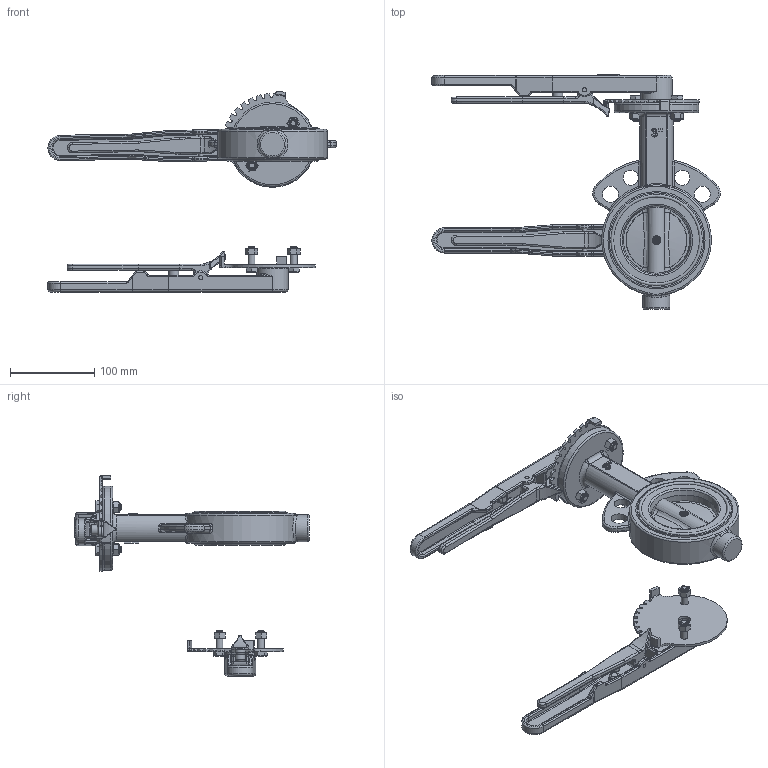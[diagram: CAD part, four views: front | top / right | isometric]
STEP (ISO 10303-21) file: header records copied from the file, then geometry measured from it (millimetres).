
FILE_DESCRIPTION( ( 'Unknown' ), '1' );
FILE_NAME( 'D:/Documentos Murilo/Desktop/VARB/2024/10_OUTUBRO/AMA 93_3/montagem AMA_93_3.stp', 'Unknown', ( 'Unknown' ), ( 'Unknown' ), 'PSStep 11.0', 'Unknown', ' ' );
FILE_SCHEMA( ( 'AUTOMOTIVE_DESIGN { 1 0 10303 214 1 1 1 1 }' ) );
Length unit declared in the file: millimetre
Products named in the file (13): Assem1; CORPO 3; ALAVANCA AMA 93; PARAFUSO; POSICIONADOR; SEDE BORRACHA 3; EIXO_3; BORBOLETA 3
Bounding box: 341.39 x 278 x 238.85 mm (x, y, z)
Volume: 1473968.2 mm3; surface area: 428900.4 mm2
Topology: 24 solids, 24 shells, 1748 faces, 4084 edges, 2462 vertices
Faces by surface type: plane 622, cylinder 490, bspline 252, torus 196, extrusion 126, cone 46, sphere 16
Full cylindrical faces by diameter (mm): 4.8 x2, 5 x4, 5.2 x2, 8 x4, 9 x12, 11.5 x2, 11.8 x4, 12 x6, 14 x2, 14.4 x2, 14.5 x8, 18 x4, 19 x4, 32 x2, 37 x2, 78.5 x2, 81.2 x2, 100 x6, 112 x4, 115 x4
Entity records: 46661 total; most frequent: CARTESIAN_POINT 20696, ORIENTED_EDGE 3828, DIRECTION 3762, EDGE_CURVE 1914, AXIS2_PLACEMENT_3D 1439, VERTEX_POINT 1207, EDGE_LOOP 1059, FACE_OUTER_BOUND 937
